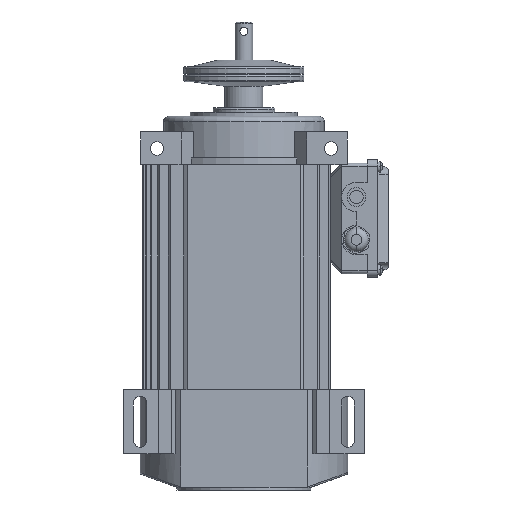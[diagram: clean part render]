
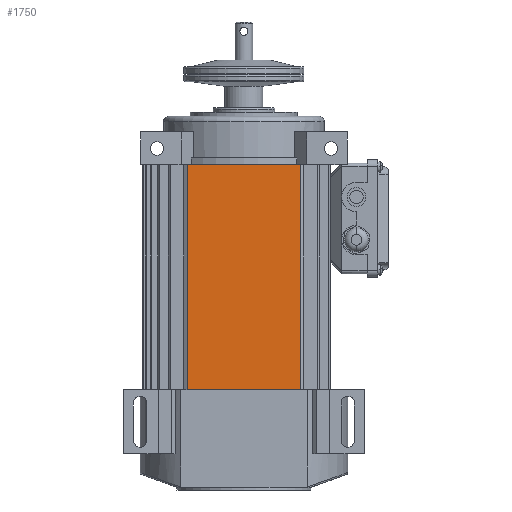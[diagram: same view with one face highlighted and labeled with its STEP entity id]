
A CAD part, front view. The second image highlights one B-rep face of the part: STEP entity #1750.
In plain terms, the highlighted planar face has unit normal (0, -1, 0).
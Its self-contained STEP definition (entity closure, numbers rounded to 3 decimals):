
#1750 = ADVANCED_FACE ( 'NONE', ( #4707 ), #5128, .T. ) ;
#3130 = LINE ( 'NONE', #16671, #3133 ) ;
#3133 = VECTOR ( 'NONE', #16672, 1000. ) ;
#4612 = CARTESIAN_POINT ( 'NONE',  ( -76., -63., 0. ) ) ;
#4707 = FACE_OUTER_BOUND ( 'NONE', #5367, .T. ) ;
#5108 = DIRECTION ( 'NONE',  ( 0., -1., 0. ) ) ;
#5128 = PLANE ( 'NONE',  #6808 ) ;
#5134 = DIRECTION ( 'NONE',  ( 0., 0., -1. ) ) ;
#5367 = EDGE_LOOP ( 'NONE', ( #8751, #8695, #8670, #8686 ) ) ;
#6808 = AXIS2_PLACEMENT_3D ( 'NONE', #4612, #5108, #5134 ) ;
#8578 = VERTEX_POINT ( 'NONE', #20991 ) ;
#8588 = VERTEX_POINT ( 'NONE', #20993 ) ;
#8596 = VERTEX_POINT ( 'NONE', #21006 ) ;
#8597 = VERTEX_POINT ( 'NONE', #21002 ) ;
#8670 = ORIENTED_EDGE ( 'NONE', *, *, #18801, .F. ) ;
#8686 = ORIENTED_EDGE ( 'NONE', *, *, #18927, .T. ) ;
#8695 = ORIENTED_EDGE ( 'NONE', *, *, #18928, .T. ) ;
#8751 = ORIENTED_EDGE ( 'NONE', *, *, #19031, .T. ) ;
#15558 = LINE ( 'NONE', #16063, #15561 ) ;
#15561 = VECTOR ( 'NONE', #16064, 1000. ) ;
#15733 = LINE ( 'NONE', #16412, #15740 ) ;
#15737 = LINE ( 'NONE', #16414, #15742 ) ;
#15740 = VECTOR ( 'NONE', #16419, 1000. ) ;
#15742 = VECTOR ( 'NONE', #16421, 1000. ) ;
#16063 = CARTESIAN_POINT ( 'NONE',  ( -76., -63., 168. ) ) ;
#16064 = DIRECTION ( 'NONE',  ( 1., 0., 0. ) ) ;
#16412 = CARTESIAN_POINT ( 'NONE',  ( -42.509, -63., 0. ) ) ;
#16414 = CARTESIAN_POINT ( 'NONE',  ( 42.509, -63., 0. ) ) ;
#16419 = DIRECTION ( 'NONE',  ( 0., 0., -1. ) ) ;
#16421 = DIRECTION ( 'NONE',  ( 0., 0., 1. ) ) ;
#16671 = CARTESIAN_POINT ( 'NONE',  ( -76., -63., 0. ) ) ;
#16672 = DIRECTION ( 'NONE',  ( 1., 0., 0. ) ) ;
#18801 = EDGE_CURVE ( 'NONE', #8596, #8588, #15558, .T. ) ;
#18927 = EDGE_CURVE ( 'NONE', #8596, #8597, #15733, .T. ) ;
#18928 = EDGE_CURVE ( 'NONE', #8578, #8588, #15737, .T. ) ;
#19031 = EDGE_CURVE ( 'NONE', #8597, #8578, #3130, .T. ) ;
#20991 = CARTESIAN_POINT ( 'NONE',  ( 42.509, -63., 0. ) ) ;
#20993 = CARTESIAN_POINT ( 'NONE',  ( 42.509, -63., 168. ) ) ;
#21002 = CARTESIAN_POINT ( 'NONE',  ( -42.509, -63., 0. ) ) ;
#21006 = CARTESIAN_POINT ( 'NONE',  ( -42.509, -63., 168. ) ) ;
